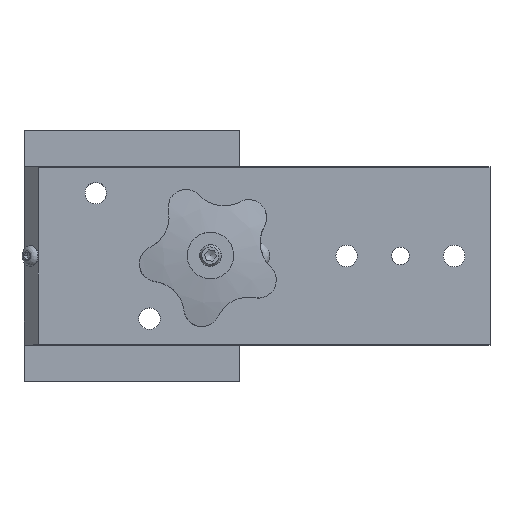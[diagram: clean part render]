
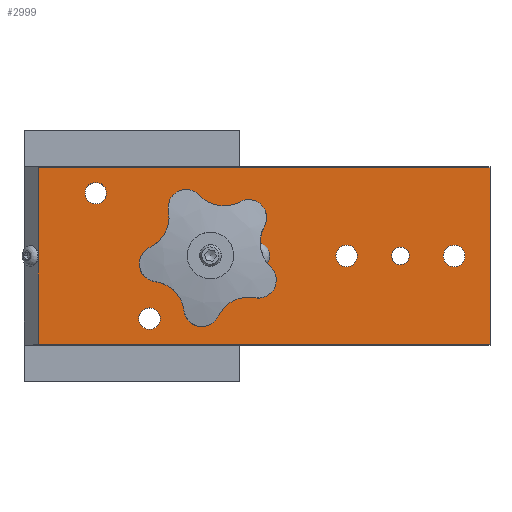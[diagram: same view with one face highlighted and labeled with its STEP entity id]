
A CAD part, top view. The second image highlights one B-rep face of the part: STEP entity #2999.
In plain terms, the highlighted planar face has unit normal (0, 0, 1).
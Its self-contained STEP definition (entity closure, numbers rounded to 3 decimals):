
#261=FACE_BOUND('',#626,.T.);
#262=FACE_BOUND('',#627,.T.);
#263=FACE_BOUND('',#628,.T.);
#264=FACE_BOUND('',#629,.T.);
#265=FACE_BOUND('',#630,.T.);
#266=FACE_BOUND('',#631,.T.);
#267=FACE_BOUND('',#632,.T.);
#268=FACE_BOUND('',#633,.T.);
#311=PLANE('',#3480);
#419=FACE_OUTER_BOUND('',#625,.T.);
#625=EDGE_LOOP('',(#2230,#2231,#2232,#2233));
#626=EDGE_LOOP('',(#2234));
#627=EDGE_LOOP('',(#2235));
#628=EDGE_LOOP('',(#2236));
#629=EDGE_LOOP('',(#2237));
#630=EDGE_LOOP('',(#2238));
#631=EDGE_LOOP('',(#2239));
#632=EDGE_LOOP('',(#2240));
#633=EDGE_LOOP('',(#2241));
#828=CIRCLE('',#3463,3.);
#830=CIRCLE('',#3466,3.);
#839=CIRCLE('',#3481,3.);
#840=CIRCLE('',#3482,3.);
#841=CIRCLE('',#3483,2.459);
#842=CIRCLE('',#3484,1.621);
#843=CIRCLE('',#3485,1.621);
#844=CIRCLE('',#3486,8.5);
#996=LINE('',#4835,#1201);
#997=LINE('',#4838,#1202);
#1002=LINE('',#4850,#1207);
#1003=LINE('',#4851,#1208);
#1201=VECTOR('',#3945,10.);
#1202=VECTOR('',#3948,10.);
#1207=VECTOR('',#3957,10.);
#1208=VECTOR('',#3958,10.);
#1395=VERTEX_POINT('',#4781);
#1397=VERTEX_POINT('',#4787);
#1414=VERTEX_POINT('',#4828);
#1417=VERTEX_POINT('',#4833);
#1418=VERTEX_POINT('',#4837);
#1423=VERTEX_POINT('',#4849);
#1424=VERTEX_POINT('',#4852);
#1425=VERTEX_POINT('',#4854);
#1426=VERTEX_POINT('',#4856);
#1427=VERTEX_POINT('',#4858);
#1428=VERTEX_POINT('',#4860);
#1429=VERTEX_POINT('',#4862);
#1702=EDGE_CURVE('',#1395,#1395,#828,.T.);
#1705=EDGE_CURVE('',#1397,#1397,#830,.T.);
#1728=EDGE_CURVE('',#1417,#1414,#996,.T.);
#1729=EDGE_CURVE('',#1414,#1418,#997,.T.);
#1735=EDGE_CURVE('',#1423,#1417,#1002,.T.);
#1736=EDGE_CURVE('',#1418,#1423,#1003,.T.);
#1737=EDGE_CURVE('',#1424,#1424,#839,.T.);
#1738=EDGE_CURVE('',#1425,#1425,#840,.T.);
#1739=EDGE_CURVE('',#1426,#1426,#841,.T.);
#1740=EDGE_CURVE('',#1427,#1427,#842,.T.);
#1741=EDGE_CURVE('',#1428,#1428,#843,.T.);
#1742=EDGE_CURVE('',#1429,#1429,#844,.T.);
#2230=ORIENTED_EDGE('',*,*,#1728,.F.);
#2231=ORIENTED_EDGE('',*,*,#1735,.F.);
#2232=ORIENTED_EDGE('',*,*,#1736,.F.);
#2233=ORIENTED_EDGE('',*,*,#1729,.F.);
#2234=ORIENTED_EDGE('',*,*,#1702,.T.);
#2235=ORIENTED_EDGE('',*,*,#1705,.T.);
#2236=ORIENTED_EDGE('',*,*,#1737,.T.);
#2237=ORIENTED_EDGE('',*,*,#1738,.T.);
#2238=ORIENTED_EDGE('',*,*,#1739,.T.);
#2239=ORIENTED_EDGE('',*,*,#1740,.T.);
#2240=ORIENTED_EDGE('',*,*,#1741,.T.);
#2241=ORIENTED_EDGE('',*,*,#1742,.T.);
#2999=ADVANCED_FACE('',(#419,#261,#262,#263,#264,#265,#266,#267,#268),#311,
 .T.);
#3463=AXIS2_PLACEMENT_3D('',#4782,#3899,#3900);
#3466=AXIS2_PLACEMENT_3D('',#4788,#3906,#3907);
#3480=AXIS2_PLACEMENT_3D('',#4848,#3955,#3956);
#3481=AXIS2_PLACEMENT_3D('',#4853,#3959,#3960);
#3482=AXIS2_PLACEMENT_3D('',#4855,#3961,#3962);
#3483=AXIS2_PLACEMENT_3D('',#4857,#3963,#3964);
#3484=AXIS2_PLACEMENT_3D('',#4859,#3965,#3966);
#3485=AXIS2_PLACEMENT_3D('',#4861,#3967,#3968);
#3486=AXIS2_PLACEMENT_3D('',#4863,#3969,#3970);
#3899=DIRECTION('center_axis',(0.,0.,-1.));
#3900=DIRECTION('ref_axis',(1.,0.,0.));
#3906=DIRECTION('center_axis',(0.,0.,-1.));
#3907=DIRECTION('ref_axis',(1.,0.,0.));
#3945=DIRECTION('',(1.,0.,0.));
#3948=DIRECTION('',(0.,-1.,0.));
#3955=DIRECTION('center_axis',(0.,0.,1.));
#3956=DIRECTION('ref_axis',(1.,0.,0.));
#3957=DIRECTION('',(0.,1.,0.));
#3958=DIRECTION('',(-1.,0.,0.));
#3959=DIRECTION('center_axis',(0.,0.,-1.));
#3960=DIRECTION('ref_axis',(1.,0.,0.));
#3961=DIRECTION('center_axis',(0.,0.,-1.));
#3962=DIRECTION('ref_axis',(1.,0.,0.));
#3963=DIRECTION('center_axis',(0.,0.,-1.));
#3964=DIRECTION('ref_axis',(1.,0.,0.));
#3965=DIRECTION('center_axis',(0.,0.,-1.));
#3966=DIRECTION('ref_axis',(1.,0.,0.));
#3967=DIRECTION('center_axis',(0.,0.,-1.));
#3968=DIRECTION('ref_axis',(1.,0.,0.));
#3969=DIRECTION('center_axis',(0.,0.,-1.));
#3970=DIRECTION('ref_axis',(1.,0.,0.));
#4781=CARTESIAN_POINT('',(29.,-17.5,10.));
#4782=CARTESIAN_POINT('Origin',(32.,-17.5,10.));
#4787=CARTESIAN_POINT('',(14.,17.5,10.));
#4788=CARTESIAN_POINT('Origin',(17.,17.5,10.));
#4828=CARTESIAN_POINT('',(48.,24.65,10.));
#4833=CARTESIAN_POINT('',(-78.,24.65,10.));
#4835=CARTESIAN_POINT('',(-45.5,24.65,10.));
#4837=CARTESIAN_POINT('',(48.,-24.65,10.));
#4838=CARTESIAN_POINT('',(48.,12.425,10.));
#4848=CARTESIAN_POINT('Origin',(-13.,0.,10.));
#4849=CARTESIAN_POINT('',(-78.,-24.65,10.));
#4850=CARTESIAN_POINT('',(-78.,-24.85,10.));
#4851=CARTESIAN_POINT('',(19.5,-24.65,10.));
#4852=CARTESIAN_POINT('',(-41.,0.,10.));
#4853=CARTESIAN_POINT('Origin',(-38.,0.,10.));
#4854=CARTESIAN_POINT('',(-71.,0.,10.));
#4855=CARTESIAN_POINT('Origin',(-68.,0.,10.));
#4856=CARTESIAN_POINT('',(-55.459,0.,10.));
#4857=CARTESIAN_POINT('Origin',(-53.,0.,10.));
#4858=CARTESIAN_POINT('',(11.129,0.,10.));
#4859=CARTESIAN_POINT('Origin',(12.75,0.,10.));
#4860=CARTESIAN_POINT('',(-14.371,0.,10.));
#4861=CARTESIAN_POINT('Origin',(-12.75,0.,10.));
#4862=CARTESIAN_POINT('',(-8.5,0.,10.));
#4863=CARTESIAN_POINT('Origin',(0.,0.,10.));
